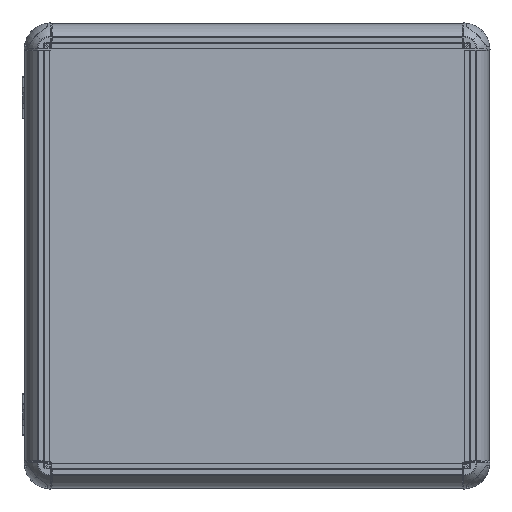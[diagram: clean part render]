
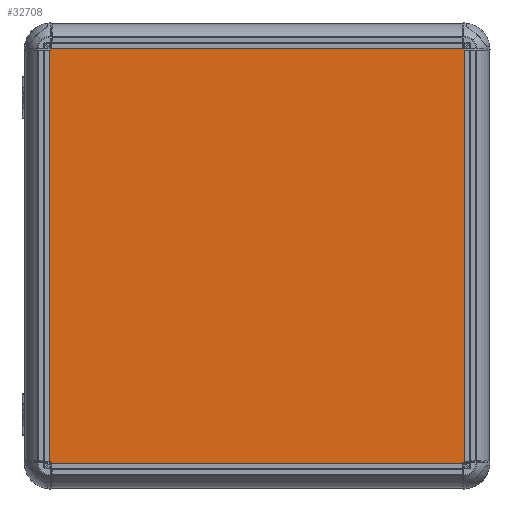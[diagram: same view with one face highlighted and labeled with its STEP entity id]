
A CAD part, top view. The second image highlights one B-rep face of the part: STEP entity #32708.
In plain terms, the highlighted planar face has unit normal (0, 0, 1).
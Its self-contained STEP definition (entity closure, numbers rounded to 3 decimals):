
#6519 = CARTESIAN_POINT ( 'NONE',  ( 200., 200., 2. ) ) ;
#6582 = LINE ( 'NONE', #28027, #86321 ) ;
#8261 = AXIS2_PLACEMENT_3D ( 'NONE', #90646, #57036, #105726 ) ;
#9660 = ORIENTED_EDGE ( 'NONE', *, *, #43929, .T. ) ;
#11880 = VERTEX_POINT ( 'NONE', #123444 ) ;
#14110 = EDGE_LOOP ( 'NONE', ( #61583, #107601, #130973, #9660 ) ) ;
#15019 = VECTOR ( 'NONE', #39134, 1000. ) ;
#19093 = VERTEX_POINT ( 'NONE', #127226 ) ;
#21528 = CARTESIAN_POINT ( 'NONE',  ( -200., -200., 2. ) ) ;
#21887 = VERTEX_POINT ( 'NONE', #21528 ) ;
#26167 = VERTEX_POINT ( 'NONE', #6519 ) ;
#27409 = DIRECTION ( 'NONE',  ( 0., 1., 0. ) ) ;
#28027 = CARTESIAN_POINT ( 'NONE',  ( -200., 200., 2. ) ) ;
#32708 = ADVANCED_FACE ( 'NONE', ( #42759 ), #117714, .T. ) ;
#39134 = DIRECTION ( 'NONE',  ( 1., 0., 0. ) ) ;
#41803 = EDGE_CURVE ( 'NONE', #19093, #26167, #49821, .T. ) ;
#42759 = FACE_OUTER_BOUND ( 'NONE', #14110, .T. ) ;
#43929 = EDGE_CURVE ( 'NONE', #21887, #19093, #110126, .T. ) ;
#49821 = LINE ( 'NONE', #50578, #70199 ) ;
#50578 = CARTESIAN_POINT ( 'NONE',  ( 200., 200., 2. ) ) ;
#54225 = CARTESIAN_POINT ( 'NONE',  ( -200., 200., 2. ) ) ;
#57036 = DIRECTION ( 'NONE',  ( 0., 0., 1. ) ) ;
#61583 = ORIENTED_EDGE ( 'NONE', *, *, #41803, .T. ) ;
#63293 = VECTOR ( 'NONE', #128458, 1000. ) ;
#70199 = VECTOR ( 'NONE', #27409, 1000. ) ;
#86321 = VECTOR ( 'NONE', #101451, 1000. ) ;
#90646 = CARTESIAN_POINT ( 'NONE',  ( 0., 0., 2. ) ) ;
#91807 = LINE ( 'NONE', #54225, #63293 ) ;
#101451 = DIRECTION ( 'NONE',  ( 0., -1., 0. ) ) ;
#105726 = DIRECTION ( 'NONE',  ( 1., 0., 0. ) ) ;
#107601 = ORIENTED_EDGE ( 'NONE', *, *, #120004, .T. ) ;
#110126 = LINE ( 'NONE', #112489, #15019 ) ;
#112489 = CARTESIAN_POINT ( 'NONE',  ( -200., -200., 2. ) ) ;
#117714 = PLANE ( 'NONE',  #8261 ) ;
#120004 = EDGE_CURVE ( 'NONE', #26167, #11880, #91807, .T. ) ;
#123444 = CARTESIAN_POINT ( 'NONE',  ( -200., 200., 2. ) ) ;
#127226 = CARTESIAN_POINT ( 'NONE',  ( 200., -200., 2. ) ) ;
#128458 = DIRECTION ( 'NONE',  ( -1., 0., 0. ) ) ;
#130973 = ORIENTED_EDGE ( 'NONE', *, *, #137998, .T. ) ;
#137998 = EDGE_CURVE ( 'NONE', #11880, #21887, #6582, .T. ) ;
